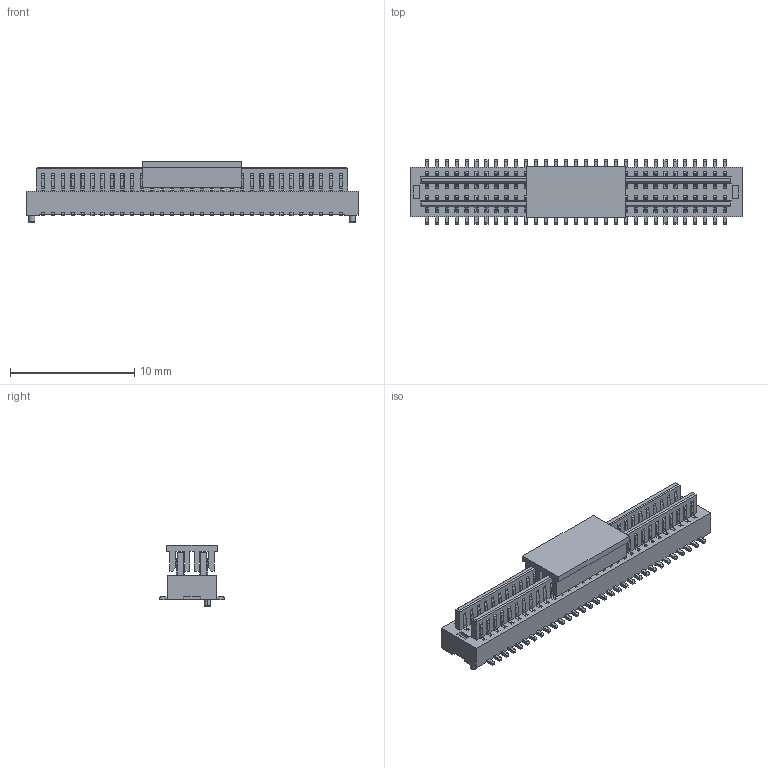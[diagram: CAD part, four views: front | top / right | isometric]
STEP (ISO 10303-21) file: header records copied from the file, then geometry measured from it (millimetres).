
FILE_DESCRIPTION (( 'STEP AP203' ), '1' );
FILE_NAME ('HC-PBB08-2-62-M-H2.0-G1-R-P-04(BTB0.8 双槽 公座 立贴 带柱 编带+盖)-HCTL.STEP', '2025-12-11T03:08:21', ( '' ), ( '' ), 'SwSTEP 2.0', 'SolidWorks 2025', '' );
FILE_SCHEMA (( 'CONFIG_CONTROL_DESIGN' ));
Length unit declared in the file: millimetre
Products named in the file (1): HC-PBB08-2-62-M-H2.0-G1-R-P-04(BTB0.8 双槽 公座 立贴 带柱 编带+盖)-HCTL
Bounding box: 26.7 x 5.2 x 4.95 mm (x, y, z)
Volume: 288.3 mm3; surface area: 1634 mm2
Topology: 2 solids, 2 shells, 3614 faces, 11606 edges, 7568 vertices
Faces by surface type: plane 2366, cylinder 1244, torus 4
Entity records: 128257 total; most frequent: CARTESIAN_POINT 23533, ORIENTED_EDGE 23212, DIRECTION 21084, EDGE_CURVE 11606, LINE 8862, VECTOR 8862, VERTEX_POINT 7568, AXIS2_PLACEMENT_3D 6111
